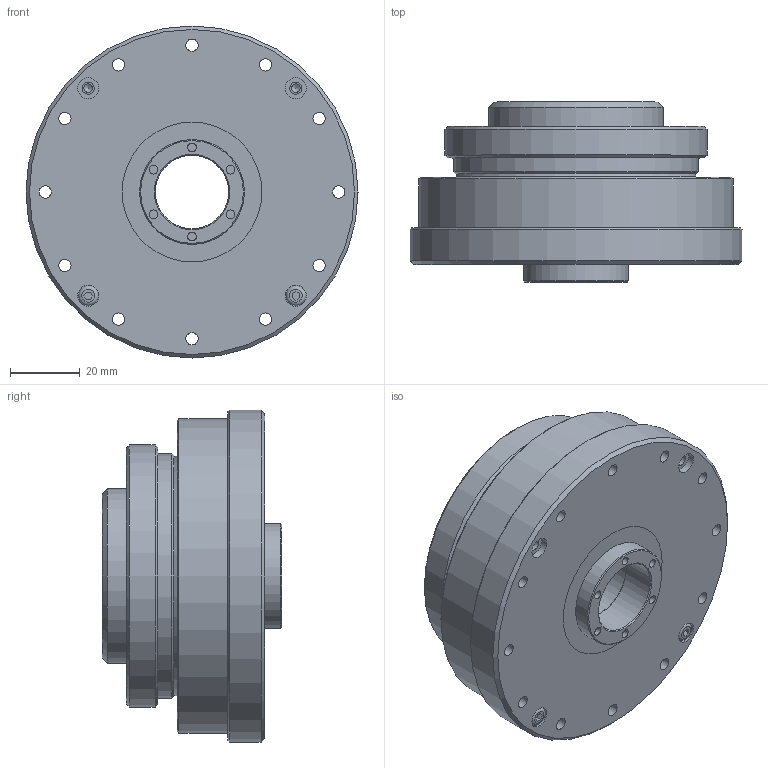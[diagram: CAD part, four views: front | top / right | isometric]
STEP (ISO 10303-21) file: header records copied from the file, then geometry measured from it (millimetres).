
FILE_DESCRIPTION(/* description */ (''),/* implementation_level */ '2;1');
FILE_NAME(/* name */ 'LHT-20-U-3',/* time_stamp */ '2017-09-16T15:16:58+08:00',/* author */ (''),/* organization */ (''),/* preprocessor_version */ 'ST-DEVELOPER v9',/* originating_system */ 'UGS - NX 4.0',/* authorisation */ '');
FILE_SCHEMA (('AUTOMOTIVE_DESIGN { 1 0 10303 214 1 1 1 1 }'));
Length unit declared in the file: millimetre
Products named in the file (1): Admi85A9d2os
Bounding box: 95 x 51.5 x 95 mm (x, y, z)
Volume: 203808.3 mm3; surface area: 130160.1 mm2
Topology: 76 solids, 76 shells, 600 faces, 1428 edges, 965 vertices
Faces by surface type: cylinder 275, plane 207, cone 52, torus 33, sphere 32, revolution 1
Full cylindrical faces by diameter (mm): 2.459 x38, 3 x4, 3.5 x88, 4.994 x20, 5.5 x2, 5.7 x2, 6 x12, 21 x2, 21.5 x1, 30 x6, 33.2 x2, 34 x2, 34.5 x1, 35 x1, 36 x1, 37 x2, 38.8 x2, 39.5 x1, 40 x4, 41 x1, 41.5 x1, 42 x4, 44 x1, 45.5 x1, 46 x1, 47.5 x1, 48 x1, 50 x2, 51.18 x1, 52.15 x2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
Entity records: 15037 total; most frequent: DIRECTION 2753, CARTESIAN_POINT 2266, ORIENTED_EDGE 1714, AXIS2_PLACEMENT_3D 1294, EDGE_LOOP 1144, FACE_BOUND 905, EDGE_CURVE 857, VERTEX_POINT 807
